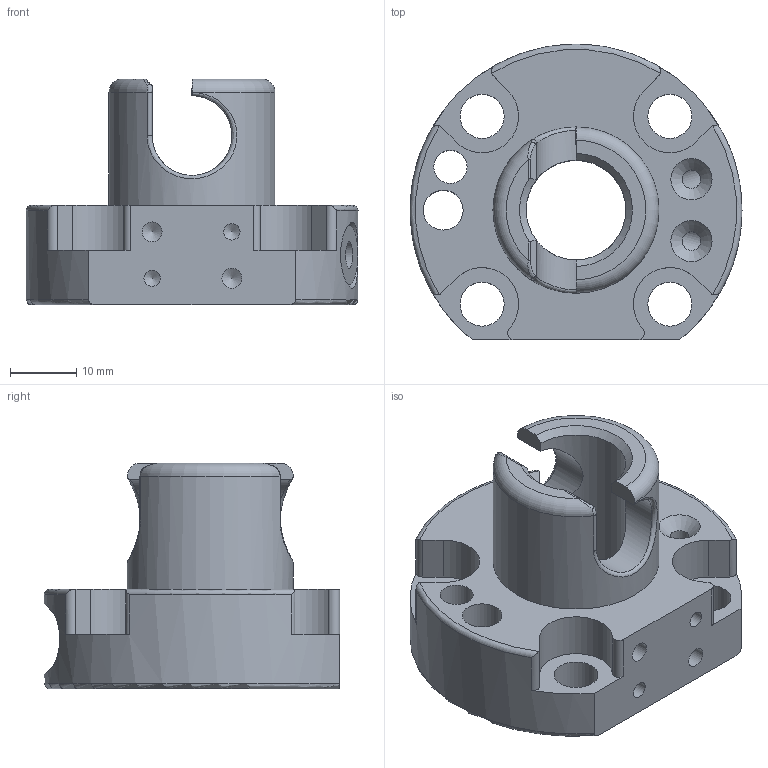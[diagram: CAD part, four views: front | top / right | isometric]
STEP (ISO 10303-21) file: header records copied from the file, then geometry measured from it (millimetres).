
FILE_DESCRIPTION(/* description */ (''),/* implementation_level */ '2;1');
FILE_NAME(/* name */ 'G-HWS050-U-A040_Rev.1.01.stp',/* time_stamp */ '2025-03-18T14:51:45+01:00',/* author */ ('ysplieth'),/* organization */ (''),/* preprocessor_version */ 'ST-DEVELOPER v20',/* originating_system */ 'Autodesk Inventor 2024',/* authorisation */ '');
FILE_SCHEMA (('AUTOMOTIVE_DESIGN { 1 0 10303 214 3 1 1 }'));
Length unit declared in the file: millimetre
Products named in the file (1): Bauteil1
Bounding box: 50 x 44.5 x 34 mm (x, y, z)
Volume: 22074 mm3; surface area: 10137.7 mm2
Topology: 1 solids, 1 shells, 274 faces, 731 edges, 482 vertices
Faces by surface type: plane 121, bspline 93, cylinder 40, cone 14, torus 6
Full cylindrical faces by diameter (mm): 2.459 x2, 2.8 x2, 3 x2, 4.134 x2, 5 x1, 6 x1, 6.647 x4, 15 x1, 25 x2
Entity records: 10736 total; most frequent: CARTESIAN_POINT 4335, ORIENTED_EDGE 1450, DIRECTION 965, EDGE_CURVE 725, VERTEX_POINT 482, LINE 409, VECTOR 409, EDGE_LOOP 321
